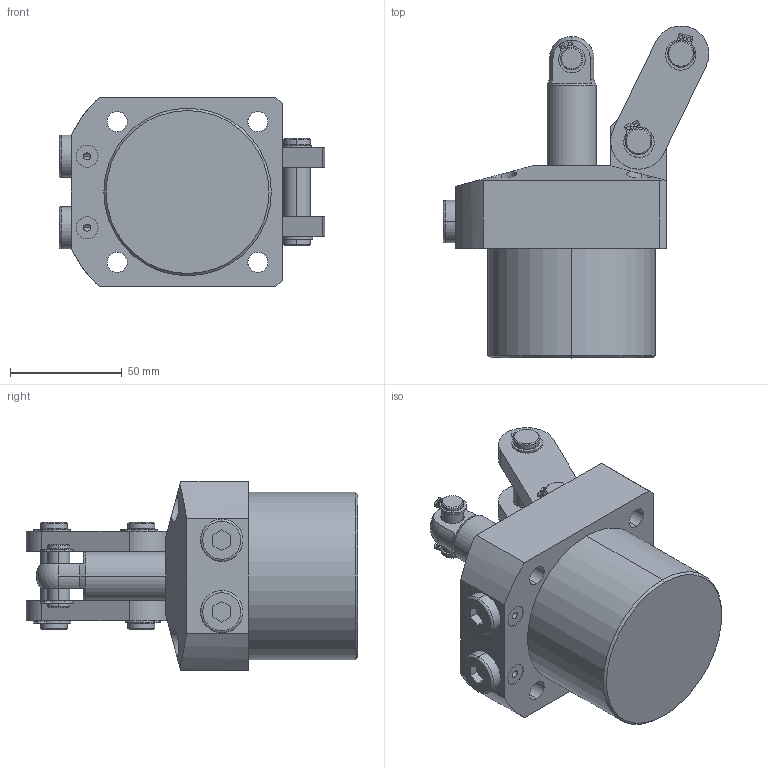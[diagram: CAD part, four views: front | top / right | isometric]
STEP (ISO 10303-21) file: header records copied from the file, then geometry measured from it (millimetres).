
FILE_DESCRIPTION (( 'STEP AP203' ), '1' );
FILE_NAME ('4171 621 C.STEP', '2017-11-25T08:40:46', ( '' ), ( '' ), 'SwSTEP 2.0', 'SolidWorks 2015', '' );
FILE_SCHEMA (( 'CONFIG_CONTROL_DESIGN' ));
Length unit declared in the file: millimetre
Products named in the file (8): PR; PIN 1; LINK; PIN 2; (normal) external_is_IS 3075 NE- 10; (normal) external_is_IS 3075 NE- 12; 4171 621 C; BODY1_4171 621 C
Assembly tree (13 placements, depth 2):
  4171 621 C
    BODY1_4171 621 C
    PR
    PIN 1
    LINK  x2
    PIN 2  x2
    (normal) external_is_IS 3075 NE- 10  x2
    (normal) external_is_IS 3075 NE- 12  x4
Bounding box: 118.97 x 148.6 x 85 mm (x, y, z)
Volume: 527347.2 mm3; surface area: 68558.8 mm2
Topology: 13 solids, 13 shells, 340 faces, 836 edges, 539 vertices
Faces by surface type: cylinder 173, plane 121, cone 40, torus 4, sphere 2
Entity records: 7618 total; most frequent: CARTESIAN_POINT 1291, DIRECTION 1196, ORIENTED_EDGE 1054, EDGE_CURVE 527, AXIS2_PLACEMENT_3D 467, VERTEX_POINT 338, EDGE_LOOP 265, LINE 262
